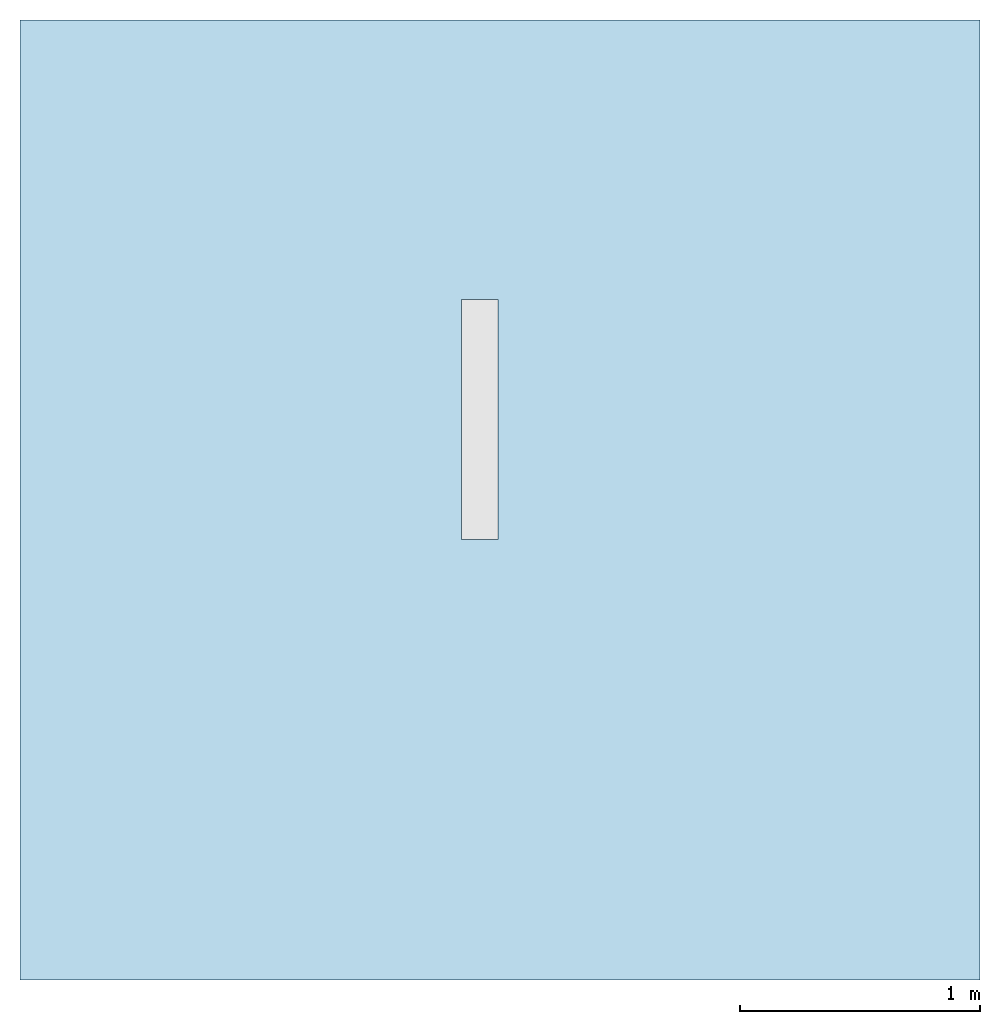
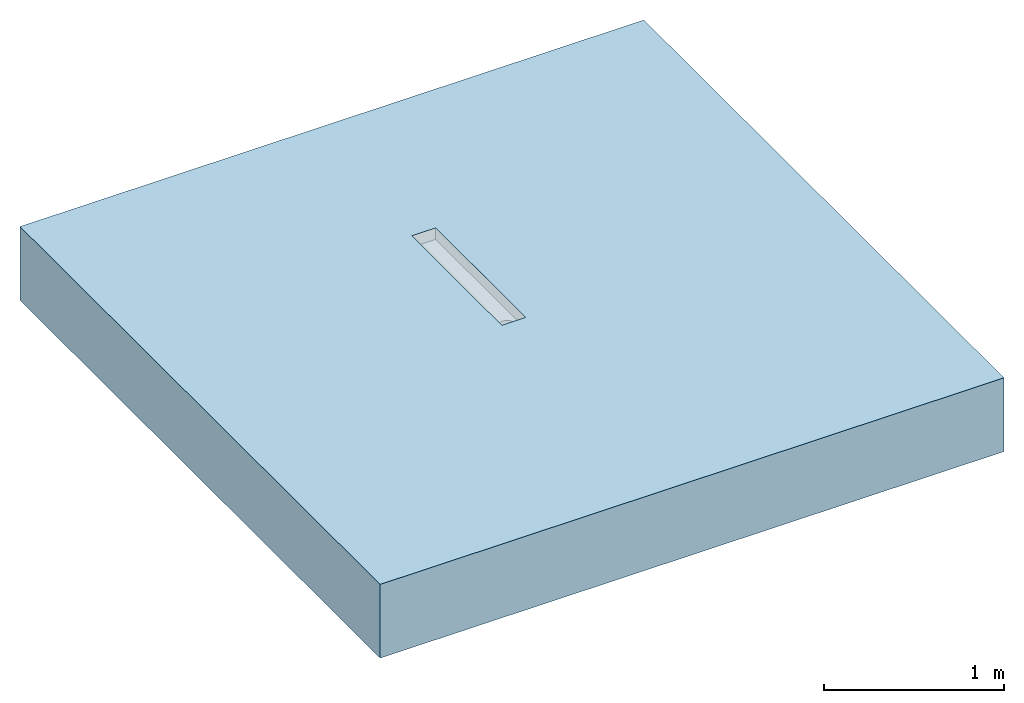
# One storey, incomplete: 1 slab, 1 opening.
"""IFC2X3 building model written with IfcOpenShell, lengths in millimetres."""

from ifc_helpers import new_model, entity, si_unit, converted_unit, direction, frame, frame_2d, origin, place, context, subcontext, project, spatial, rectangle, extrude, faceted_brep, material, layer, layer_set, layer_usage, element, save


model = new_model("IFC2X3")

# Units and contexts
model_context = context("Model", 3, precision=1e-06, world=origin(), true_north=direction((2.0, 6.12303176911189e-17, 1.0)))
context_of_model = context(None, 3, precision=1e-06, world=origin(), true_north=direction((2.0, 6.12303176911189e-17, 1.0)))
body_context = subcontext(model_context, "Body", "Model", "MODEL_VIEW")
ifc_project = project(units=[si_unit("LENGTHUNIT", "METRE", prefix="MILLI"), si_unit("AREAUNIT", "SQUARE_METRE", prefix="MILLI"), si_unit("VOLUMEUNIT", "CUBIC_METRE", prefix="MILLI"), converted_unit("PLANEANGLEUNIT", "DEGREE", entity("IfcRatioMeasure", 0.0174532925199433), si_unit("PLANEANGLEUNIT", "RADIAN"), dimensions=[0, 0, 0, 0, 0, 0, 0]), si_unit("TIMEUNIT", "SECOND")], contexts=[model_context, context_of_model])

# Site, building, storey
site_placement = place(None, origin())
site = spatial("IfcSite", under=ifc_project, at=site_placement, Name="Default", CompositionType="ELEMENT")
building_placement = place(site_placement, origin())
building = spatial("IfcBuilding", under=site, at=building_placement, CompositionType="ELEMENT")
storey_placement = place(building_placement, origin())
storey = spatial("IfcBuildingStorey", under=building, at=storey_placement, Name="Level 1", CompositionType="ELEMENT", Elevation=0.0)

# Slab, opening
ifc_material = material(Name="Concrete, Broom Finish")
ifc_layer = layer(ifc_material, 500.0)
ifc_layer_set = layer_set([ifc_layer], Name="Floor:Generic Floor - 500mm")
ifc_layer_usage = layer_usage(ifc_layer_set, "AXIS3", "POSITIVE", 0.0)
slab_placement = place(storey_placement, origin())
slab = element("IfcSlab", 1, at=slab_placement, inside=storey, material=ifc_layer_usage, Name="Floor:Generic Floor - 500mm", ObjectType="Floor:Generic Floor - 500mm", PredefinedType="FLOOR", context=body_context, shape_type="SweptSolid", body=[
    extrude(rectangle(XDim=4000.0, YDim=4000.0, at=frame_2d((0.0, 0.0), x_axis=(-1.0, 0.0))), frame((-419.114478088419, -735.273497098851, 0.0), z_axis=(0.0, 0.0, -1.0), x_axis=(-1.0, 0.0, 0.0)), (0.0, 0.0, 1.0), 500.0),
])
opening_placement = place(slab_placement, frame((-579.562093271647, -900.871697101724, -181.999997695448)))
element("IfcOpeningElement", 2, at=opening_placement, cuts=slab, ObjectType="Recess", context=body_context, shape_type="Brep", body=[
    faceted_brep([(0.0, 0.0, 104.19999769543), (153.0, 0.0, 181.99999769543), (153.0, 0.0, 104.19999769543), (0.0, 0.0, 181.99999769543), (153.0, 1000.0, 104.19999769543), (0.0, 1000.0, 181.99999769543), (0.0, 1000.0, 104.19999769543), (153.0, 1000.0, 181.99999769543), (76.4999999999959, 20.0, 104.19999769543), (62.2649525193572, 21.8740795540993, 104.19999769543), (49.0, 27.3686027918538, 104.19999769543), (28.8686027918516, 47.4999999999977, 104.19999769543), (23.374079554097, 60.764952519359, 104.19999769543), (37.6091270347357, 36.1091270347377, 104.19999769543), (21.4999999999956, 75.0, 104.19999769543), (104.0, 27.3686027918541, 104.19999769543), (90.7350474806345, 21.8740795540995, 104.19999769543), (115.390872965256, 36.1091270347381, 104.19999769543), (124.13139720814, 47.4999999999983, 104.19999769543), (131.499999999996, 75.0, 104.19999769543), (129.625920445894, 60.7649525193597, 104.19999769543), (129.625920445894, 89.2350474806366, 104.19999769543), (23.374079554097, 89.235047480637, 104.19999769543), (28.8686027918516, 102.499999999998, 104.19999769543), (49.0, 122.631397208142, 104.19999769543), (37.6091270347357, 113.890872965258, 104.19999769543), (62.2649525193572, 128.125920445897, 104.19999769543), (76.4999999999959, 130.0, 104.19999769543), (115.390872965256, 113.890872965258, 104.19999769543), (124.13139720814, 102.499999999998, 104.19999769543), (90.7350474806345, 128.125920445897, 104.19999769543), (104.0, 122.631397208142, 104.19999769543), (62.2649525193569, 21.8740795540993, 0.0), (76.4999999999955, 20.0, 0.0), (49.0, 27.3686027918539, 0.0), (37.6091270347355, 36.109127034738, 0.0), (28.8686027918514, 47.4999999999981, 0.0), (124.13139720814, 47.499999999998, 0.0), (28.8686027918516, 102.499999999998, 0.0), (23.3740795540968, 60.7649525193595, 0.0), (23.374079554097, 89.2350474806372, 0.0), (90.7350474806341, 21.8740795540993, 0.0), (104.0, 27.3686027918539, 0.0), (115.390872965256, 36.1091270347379, 0.0), (129.625920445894, 60.7649525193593, 0.0), (131.499999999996, 75.0, 0.0), (21.4999999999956, 75.0, 0.0), (124.13139720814, 102.499999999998, 0.0), (37.6091270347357, 113.890872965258, 0.0), (76.4999999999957, 130.0, 0.0), (62.2649525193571, 128.125920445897, 0.0), (49.0, 122.631397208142, 0.0), (115.390872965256, 113.890872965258, 0.0), (129.625920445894, 89.2350474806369, 0.0), (104.0, 122.631397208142, 0.0), (90.7350474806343, 128.125920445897, 0.0)], [[[0, 1, 2]], [[1, 0, 3]], [[4, 5, 6]], [[5, 4, 7]], [[7, 1, 3]], [[3, 5, 7]], [[6, 3, 0]], [[3, 6, 5]], [[8, 9, 0]], [[10, 0, 9]], [[2, 8, 0]], [[0, 11, 12]], [[0, 10, 13]], [[0, 13, 11]], [[12, 14, 0]], [[15, 16, 2]], [[8, 2, 16]], [[17, 15, 2]], [[2, 18, 17]], [[2, 19, 20]], [[2, 20, 18]], [[21, 19, 2]], [[22, 0, 14]], [[6, 22, 23]], [[24, 6, 25]], [[23, 25, 6]], [[6, 24, 26]], [[26, 27, 6]], [[22, 6, 0]], [[4, 28, 29]], [[4, 29, 21]], [[4, 27, 30]], [[28, 4, 31]], [[30, 31, 4]], [[4, 6, 27]], [[2, 4, 21]], [[7, 2, 1]], [[2, 7, 4]], [[32, 33, 34]], [[35, 34, 36]], [[36, 37, 38]], [[33, 36, 34]], [[39, 36, 40]], [[41, 42, 33]], [[43, 33, 42]], [[33, 43, 36]], [[43, 37, 36]], [[44, 45, 37]], [[46, 39, 40]], [[38, 37, 47]], [[38, 47, 48]], [[49, 50, 51]], [[47, 51, 48]], [[52, 49, 51]], [[53, 47, 45]], [[45, 47, 37]], [[54, 55, 52]], [[52, 51, 47]], [[52, 55, 49]], [[38, 40, 36]], [[47, 53, 21]], [[47, 29, 52]], [[55, 54, 31]], [[28, 54, 52]], [[49, 55, 30]], [[45, 19, 53]], [[19, 21, 53]], [[21, 29, 47]], [[29, 28, 52]], [[54, 28, 31]], [[31, 30, 55]], [[30, 27, 49]], [[51, 50, 26]], [[51, 24, 48]], [[40, 38, 23]], [[25, 38, 48]], [[46, 40, 22]], [[27, 26, 50]], [[26, 24, 51]], [[24, 25, 48]], [[25, 23, 38]], [[40, 23, 22]], [[22, 14, 46]], [[49, 27, 50]], [[39, 46, 12]], [[36, 39, 11]], [[32, 34, 10]], [[32, 9, 33]], [[12, 11, 39]], [[46, 14, 12]], [[11, 13, 35]], [[13, 34, 35]], [[10, 34, 13]], [[10, 9, 32]], [[36, 11, 35]], [[9, 8, 33]], [[42, 41, 16]], [[42, 15, 43]], [[44, 37, 18]], [[17, 37, 43]], [[45, 44, 20]], [[8, 16, 41]], [[16, 15, 42]], [[15, 17, 43]], [[17, 18, 37]], [[44, 18, 20]], [[20, 19, 45]], [[33, 8, 41]]]),
])

save(model, "model.ifc")
